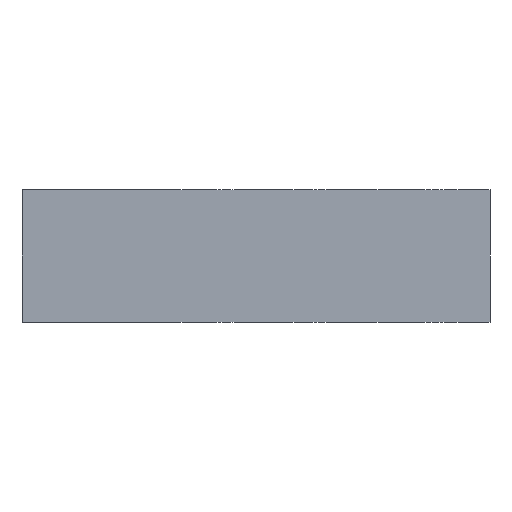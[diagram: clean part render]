
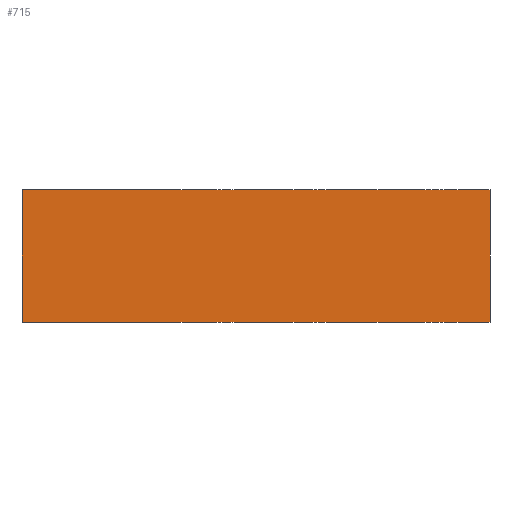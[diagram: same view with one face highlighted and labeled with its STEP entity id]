
A CAD part, front view. The second image highlights one B-rep face of the part: STEP entity #715.
In plain terms, the highlighted planar face has unit normal (0, -1, 0).
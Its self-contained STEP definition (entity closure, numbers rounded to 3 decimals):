
#21 = CARTESIAN_POINT ( 'NONE',  ( 38.051, 0., 0. ) ) ;
#205 = ORIENTED_EDGE ( 'NONE', *, *, #1049, .T. ) ;
#417 = VECTOR ( 'NONE', #1496, 1000. ) ;
#497 = PLANE ( 'NONE',  #2884 ) ;
#506 = LINE ( 'NONE', #2086, #1570 ) ;
#547 = VERTEX_POINT ( 'NONE', #1900 ) ;
#715 = ADVANCED_FACE ( 'NONE', ( #2327 ), #497, .T. ) ;
#1020 = CARTESIAN_POINT ( 'NONE',  ( 0., 0., 10. ) ) ;
#1049 = EDGE_CURVE ( 'NONE', #1637, #547, #2188, .T. ) ;
#1131 = ORIENTED_EDGE ( 'NONE', *, *, #2492, .T. ) ;
#1332 = ORIENTED_EDGE ( 'NONE', *, *, #2493, .F. ) ;
#1360 = ORIENTED_EDGE ( 'NONE', *, *, #2849, .F. ) ;
#1496 = DIRECTION ( 'NONE',  ( -1., 0., 0. ) ) ;
#1564 = DIRECTION ( 'NONE',  ( 0., -1., 0. ) ) ;
#1570 = VECTOR ( 'NONE', #2896, 1000. ) ;
#1637 = VERTEX_POINT ( 'NONE', #1784 ) ;
#1775 = EDGE_LOOP ( 'NONE', ( #1360, #1332, #1131, #205 ) ) ;
#1779 = CARTESIAN_POINT ( 'NONE',  ( 0., 0., 0. ) ) ;
#1784 = CARTESIAN_POINT ( 'NONE',  ( 2.795, 0., 10. ) ) ;
#1803 = LINE ( 'NONE', #2837, #3056 ) ;
#1900 = CARTESIAN_POINT ( 'NONE',  ( 2.795, 0., 0. ) ) ;
#2026 = VECTOR ( 'NONE', #2974, 1000. ) ;
#2086 = CARTESIAN_POINT ( 'NONE',  ( 38.051, 0., 10. ) ) ;
#2188 = LINE ( 'NONE', #2476, #2026 ) ;
#2327 = FACE_OUTER_BOUND ( 'NONE', #1775, .T. ) ;
#2402 = CARTESIAN_POINT ( 'NONE',  ( 38.051, 0., 10. ) ) ;
#2476 = CARTESIAN_POINT ( 'NONE',  ( 2.795, 0., 10. ) ) ;
#2492 = EDGE_CURVE ( 'NONE', #2699, #1637, #1803, .T. ) ;
#2493 = EDGE_CURVE ( 'NONE', #2699, #3000, #506, .T. ) ;
#2699 = VERTEX_POINT ( 'NONE', #2402 ) ;
#2831 = LINE ( 'NONE', #1779, #417 ) ;
#2837 = CARTESIAN_POINT ( 'NONE',  ( 0., 0., 10. ) ) ;
#2849 = EDGE_CURVE ( 'NONE', #3000, #547, #2831, .T. ) ;
#2884 = AXIS2_PLACEMENT_3D ( 'NONE', #1020, #1564, #3377 ) ;
#2896 = DIRECTION ( 'NONE',  ( 0., 0., -1. ) ) ;
#2974 = DIRECTION ( 'NONE',  ( 0., 0., -1. ) ) ;
#3000 = VERTEX_POINT ( 'NONE', #21 ) ;
#3056 = VECTOR ( 'NONE', #3088, 1000. ) ;
#3088 = DIRECTION ( 'NONE',  ( -1., 0., 0. ) ) ;
#3377 = DIRECTION ( 'NONE',  ( 0., 0., -1. ) ) ;
